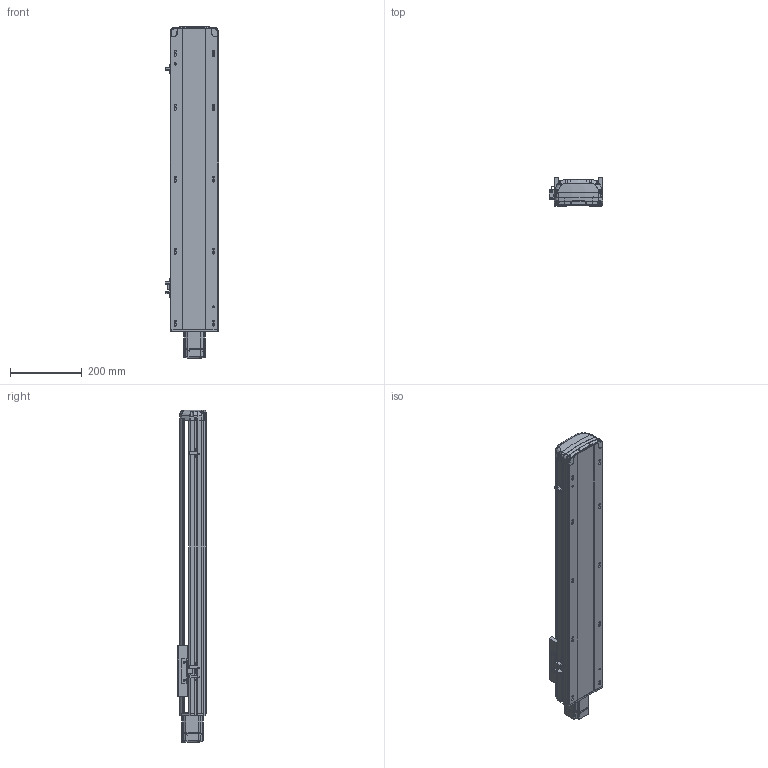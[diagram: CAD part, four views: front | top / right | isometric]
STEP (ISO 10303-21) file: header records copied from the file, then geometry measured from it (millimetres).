
FILE_DESCRIPTION (( 'STEP AP214' ), '1' );
FILE_NAME ('RTH14-XX-600-E-M20-C4.STEP', '2025-10-24T09:08:55', ( 'Microsoft' ), ( 'Microsoft' ), 'SwSTEP 2.0', 'SolidWorks 2018', '' );
FILE_SCHEMA (( 'AUTOMOTIVE_DESIGN' ));
Length unit declared in the file: millimetre
Products named in the file (9): N_RTH14-E-011P菁釱^RTH14-XX-XX-E-M20-C4; N_RTH13-E-008萇儂耜猾裔^RTH14-XX-XX-E-M20-C4; RTH14-XX-600-E-M20-C4; N_RTH14-GY-001P^RTH14-XX-XX-E-M20-C4; N_RTH13-L-012感应片（外置）^RTH14-XX-XX-E-M20-C4; N_RTH14-R-004-SFSR16賑釱^RTH14-XX-XX-E-M20-C4; N_MSMD022P1AA_200W^RTH14-XX-XX-E-M20-C4; N_OMRON EE-SX672 传感器^RTH14-XX-XX-E-M20-C4; N_RTH14-E-007P奻裔^RTH14-XX-XX-E-M20-C4
Assembly tree (10 placements, depth 2):
  RTH14-XX-600-E-M20-C4
    N_RTH14-E-011P菁釱^RTH14-XX-XX-E-M20-C4
    N_RTH14-E-007P奻裔^RTH14-XX-XX-E-M20-C4
    N_MSMD022P1AA_200W^RTH14-XX-XX-E-M20-C4
    N_RTH13-L-012感应片（外置）^RTH14-XX-XX-E-M20-C4
    N_OMRON EE-SX672 传感器^RTH14-XX-XX-E-M20-C4  x3
    N_RTH13-E-008萇儂耜猾裔^RTH14-XX-XX-E-M20-C4
    N_RTH14-R-004-SFSR16賑釱^RTH14-XX-XX-E-M20-C4
    N_RTH14-GY-001P^RTH14-XX-XX-E-M20-C4
Bounding box: 148.5 x 78.03 x 922.37 mm (x, y, z)
Volume: 3861904.1 mm3; surface area: 849513.6 mm2
Topology: 10 solids, 10 shells, 1867 faces, 5254 edges, 3452 vertices
Faces by surface type: plane 977, cylinder 500, bspline 341, cone 45, torus 4
Entity records: 57192 total; most frequent: CARTESIAN_POINT 22852, ORIENTED_EDGE 7576, DIRECTION 6111, EDGE_CURVE 3788, VERTEX_POINT 2488, LINE 2167, VECTOR 2167, AXIS2_PLACEMENT_3D 1972
